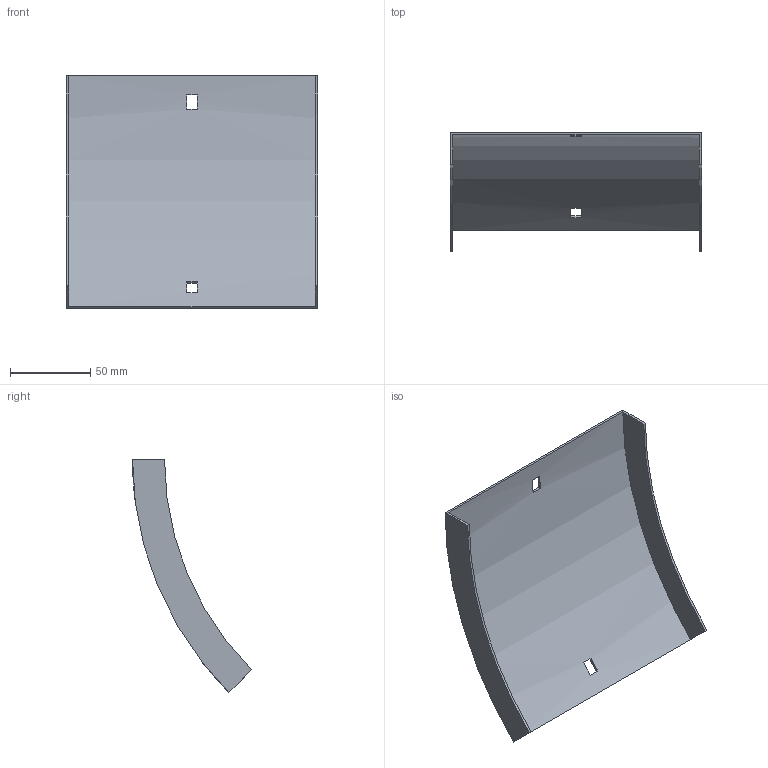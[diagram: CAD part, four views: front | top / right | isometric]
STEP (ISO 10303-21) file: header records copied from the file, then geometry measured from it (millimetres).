
FILE_DESCRIPTION (( 'STEP AP214' ), '1' );
FILE_NAME ('34N1D150.step', '2025-02-21T09:13:52', ( '' ), ( '' ), 'SwSTEP 2.0', 'SolidWorks 2023', '' );
FILE_SCHEMA (( 'AUTOMOTIVE_DESIGN' ));
Length unit declared in the file: millimetre
Products named in the file (1): 34N1D150
Bounding box: 157 x 74.33 x 145.31 mm (x, y, z)
Volume: 46183.8 mm3; surface area: 62692.6 mm2
Topology: 1 solids, 1 shells, 18 faces, 48 edges, 32 vertices
Faces by surface type: plane 14, cylinder 4
Entity records: 599 total; most frequent: DIRECTION 102, CARTESIAN_POINT 99, ORIENTED_EDGE 96, EDGE_CURVE 48, AXIS2_PLACEMENT_3D 35, LINE 32, VERTEX_POINT 32, VECTOR 32
